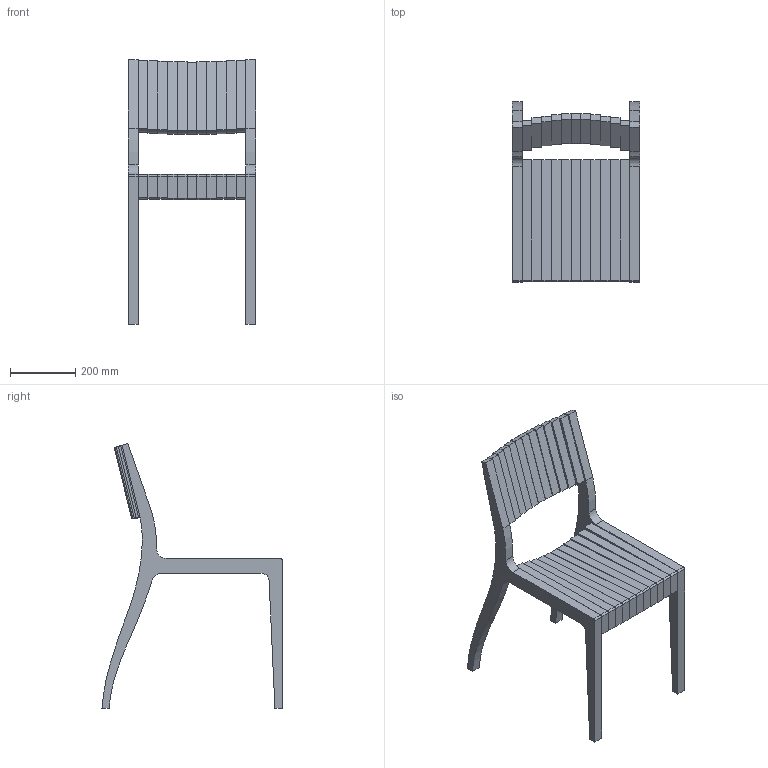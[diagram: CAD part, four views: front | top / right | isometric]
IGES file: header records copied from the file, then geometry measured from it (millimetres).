
Start section: Data from Parasolid IGES Translator 17.0.49, Copyright(c) 2006 Siemens P LM Software. All Rights Reserved.
Global section: file name: ED.igs; native system: By Siemens PLM Incorporated; preprocessor: XPlus GENERIC/IGES 17.0.49; author: Noname; organization: Noname; date: 20170605.171055; units: metre
Bounding box: 390 x 552.83 x 812.07 mm (x, y, z)
Volume: 10048777.6 mm3; surface area: 1316984.3 mm2
Topology: 24 solids, 24 shells, 230 faces, 546 edges, 364 vertices
Faces by surface type: plane 156, cylinder 74
